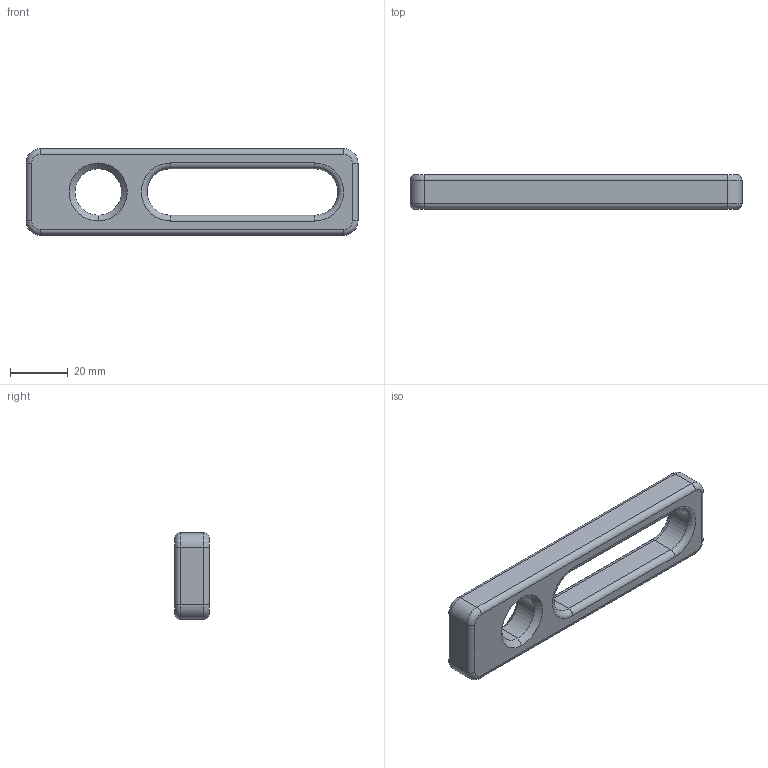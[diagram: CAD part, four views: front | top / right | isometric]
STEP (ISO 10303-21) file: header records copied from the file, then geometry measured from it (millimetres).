
FILE_DESCRIPTION (( 'STEP AP203' ), '1' );
FILE_NAME ('160420.STEP', '2020-07-09T07:37:58', ( '' ), ( '' ), 'SwSTEP 2.0', 'SolidWorks 2019', '' );
FILE_SCHEMA (( 'CONFIG_CONTROL_DESIGN' ));
Length unit declared in the file: millimetre
Products named in the file (1): 160420
Bounding box: 115 x 12 x 30 mm (x, y, z)
Volume: 25635.8 mm3; surface area: 9373.9 mm2
Topology: 1 solids, 1 shells, 44 faces, 98 edges, 56 vertices
Faces by surface type: cylinder 20, torus 12, plane 8, cone 4
Entity records: 1299 total; most frequent: DIRECTION 244, CARTESIAN_POINT 199, ORIENTED_EDGE 196, AXIS2_PLACEMENT_3D 101, EDGE_CURVE 98, CIRCLE 56, VERTEX_POINT 56, EDGE_LOOP 48
